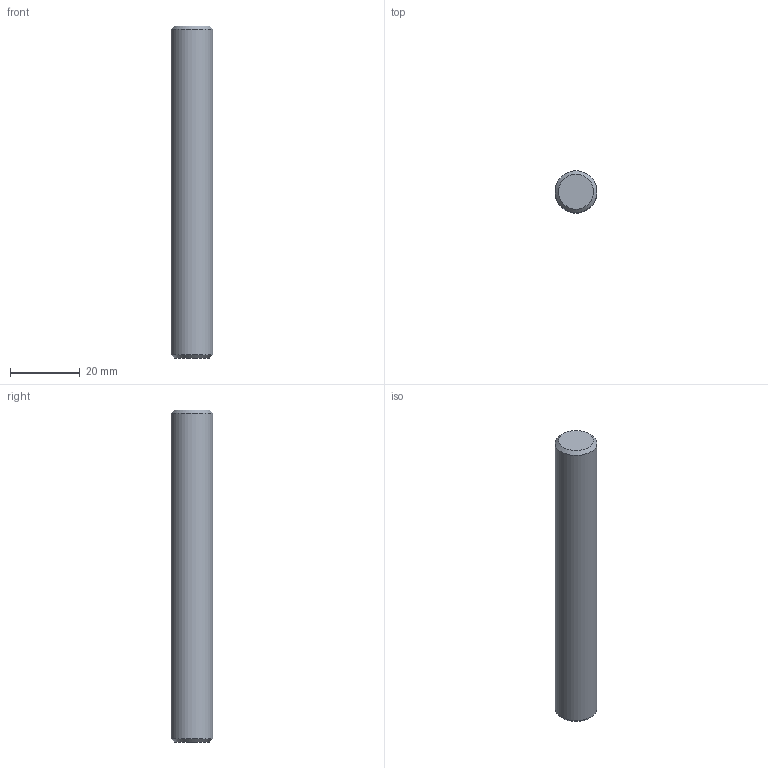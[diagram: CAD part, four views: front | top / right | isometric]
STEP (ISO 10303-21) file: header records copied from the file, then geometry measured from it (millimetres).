
FILE_DESCRIPTION(/* description */ (''),/* implementation_level */ '2;1');
FILE_NAME(/* name */ 'TRAYLOADER.74.stp',/* time_stamp */ '2025-05-12T16:08:01+02:00',/* author */ (''),/* organization */ (''),/* preprocessor_version */ 'ST-DEVELOPER v19.4',/* originating_system */ 'SIEMENS PLM Software NX2306.5001',/* authorisation */ '');
FILE_SCHEMA (('AP203_CONFIGURATION_CONTROLLED_3D_DESIGN_OF_MECHANICAL_PARTS_AND_ASSEMBLIES_MIM_LF { 1 0 10303 403 2 1 2}'));
Length unit declared in the file: millimetre
Products named in the file (1): TRAYLOADER.74_objects
Bounding box: 12 x 12 x 95 mm (x, y, z)
Volume: 10708.6 mm3; surface area: 3760.8 mm2
Topology: 1 solids, 1 shells, 5 faces, 8 edges, 5 vertices
Faces by surface type: plane 2, cone 2, cylinder 1
Full cylindrical faces by diameter (mm): 12 x1
Entity records: 180 total; most frequent: DIRECTION 20, CARTESIAN_POINT 14, AXIS2_PLACEMENT_3D 10, EDGE_LOOP 8, ORIENTED_EDGE 8, FACE_BOUND 6, DATE_AND_TIME 5, LOCAL_TIME 5
